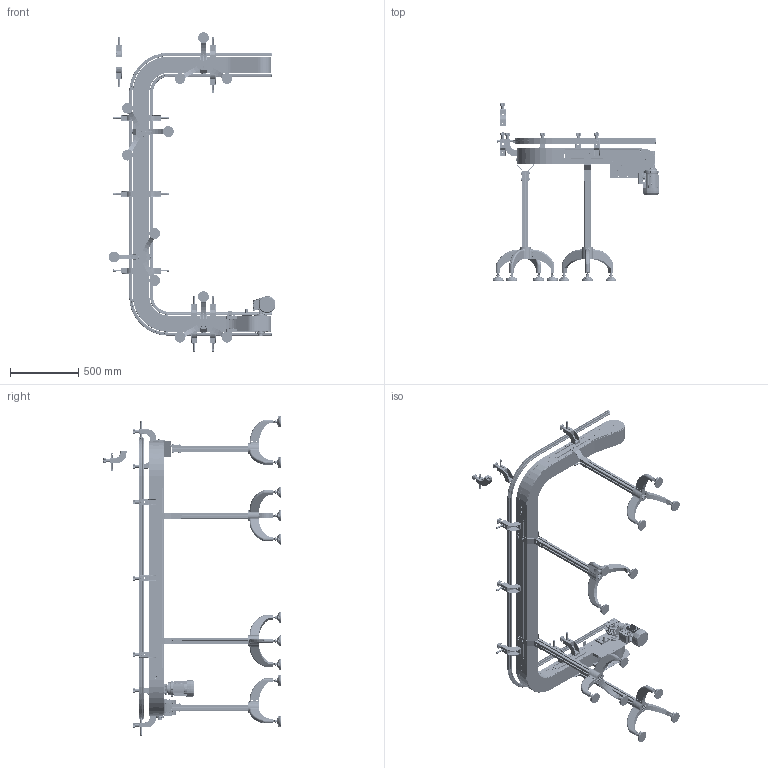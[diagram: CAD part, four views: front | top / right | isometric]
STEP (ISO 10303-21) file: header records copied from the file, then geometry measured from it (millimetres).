
FILE_DESCRIPTION (( 'STEP AP203' ), '1' );
FILE_NAME ('NASTRO_CATENA.step', '2026-04-28T08:26:16', ( 'Utente Windows' ), ( '' ), 'SwSTEP 2.0', 'SolidWorks 2024', '' );
FILE_SCHEMA (( 'CONFIG_CONTROL_DESIGN' ));
Length unit declared in the file: millimetre
Products named in the file (76): RONDELLE FASCIA LARGA UNI 6593 INOX_8.4x32 UNI 6593 INOX; K450_DIR_49_P_DX_MOTORE A DESTRA; NASTRO_CATENA; SUPPORTO_SPONDA; 2000.001.209-1; 084.201.012-1; K450_90°_S_P; 2000.450.002; 2000.001.001; 2000.882.750; RONDELLE FASCIA LARGA UNI 6593 INOX_8.4x24 UNI 6593 INOX; VITI TE UNI 5739_M8x20 UNI 5739; VITI TE UNI 5739 INOX_M6x20 UNI 5739 INOX; K450_R_P; 084.711.005; 2000.450.003; K450_7_Default<A macchina>; VITI TE UNI 5739 INOX_M8x16 UNI 5739 INOX; 2000.001.006-2; 2000.450.103-2; 2000.001.003-3; VITI TE UNI 5739 INOX_M6x30 UNI 5739 INOX; CATENA_UDX; 2000.450.001; 2000.325.206-1; 084.808.004; PU008.012.025N; GRANI A PUNTA PIATTA UNI 5923_M8x20 UNI 5923; 2000.450.101-1; 084.408.001; VITI TSEI UNI 5933 INOX_0410UNI5933A2; 084.302.000 DADI ALUSIC 13x13-1_084.302.008; FLANGIA_GAMBE_KP450; 25UNI7435; GRANI A PUNTA CONICA UNI 5927_M8x16 UNI 5927; 084.711.004; 084.301.000 VITI ALUSIC_084.301.002; CH05P_DX; GAMBE_KP325_Default<A macchina>; 2000.450.422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
Assembly tree (229 placements, depth 3):
  NASTRO_CATENA
    K450_1_Default<A macchina>
    K450_7_Default<A macchina>
    K450_9_Default<A macchina>
    K450_DIR_49_P_DX_MOTORE A DESTRA
      084.802.027
      2000.001.006-2  x2
      2000.001.001  x2
      2000.001.004-3
      2000.001.003-3
      2000.001.011
      2000.450.101-1
      2000.450.001  x2
      2000.450.103-2
      2000.450.104-2
      2000.450.002  x2
      084.808.004
      PU008.012.025N
      CHIAVETTE_A 8x7x70 UNI 6604-69
      CHIAVETTE_A 8x7x50 UNI 6604-69
      SBPF205  x2
      663151_NS880T12R25
      VITI TSEI UNI 5933 INOX_0410UNI5933A2  x8
      GRANI A PUNTA CONICA UNI 5927_M8x16 UNI 5927  x8
      VITI TCEI UNI 5931 INOX_M6x30 UNI 5931 INOX  x2
      VITI TE UNI 5739 INOX_M8x20 UNI 5739 INOX
      RONDELLE FASCIA LARGA UNI 6593 INOX_8.4x32 UNI 6593 INOX
      GRANI A PUNTA PIATTA UNI 5923_M8x20 UNI 5923
      RONDELLE FASCIA LARGA UNI 6593 INOX_8.4x24 UNI 6593 INOX
      VITI TE UNI 5739 INOX_M8x16 UNI 5739 INOX  x7
      DADI ESAGONALI AUTOBLOCCANTI UNI 7473 INOX_M6 UNI 7473 INOX  x4
      084.312.006  x6
      VITI TE UNI 5739 INOX_M6x20 UNI 5739 INOX  x6
      VITI TE UNI 5739 INOX_M6x30 UNI 5739 INOX  x4
      VITI TE UNI 5739 INOX_M6x12 UNI 5739 INOX  x4
    K450_90°_S_P  x2
      2000.001.402
      2000.450.005_Default<A macchina>
      2000.450.421_2000.450.421
      2000.450.422
      2000.450.423
      VITI TSEI UNI 5933 INOX_0820UNI5933A2
      VITI TSEI UNI 5933 INOX_0620UNI5933A2
      084.302.000 DADI ALUSIC 13x13-1_084.302.008
    K450_R_P
      2000.001.206-2
      2000.001.207-2
      2000.450.201-1S
      2000.001.208-1
      2000.001.209-1
      2000.450.003  x2
      2000.001.001  x2
      2000.450.001  x2
      2000.325.206-1
      PROFILO POLIZENE LARGO  x2
      VITI TSEI UNI 5933 INOX_0620UNI5933A2  x8
      VITI TSEI UNI 5933 INOX_0410UNI5933A2  x14
      VITI TSEI UNI 5933 INOX_0820UNI5933A2  x2
      GRANI A PUNTA CONICA UNI 5927 INOX_M8x14 UNI 5927 INOX  x8
      25UNI7435  x2
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Bounding box: 1224.3 x 1305.89 x 2344.56 mm (x, y, z)
Volume: 38546446.1 mm3; surface area: 13973337.5 mm2
Topology: 440 solids, 449 shells, 18110 faces, 43534 edges, 26472 vertices
Faces by surface type: plane 6433, cylinder 6402, cone 3575, torus 853, bspline 763, sphere 84
Entity records: 204081 total; most frequent: CARTESIAN_POINT 56654, DIRECTION 28845, ORIENTED_EDGE 28026, EDGE_CURVE 14024, AXIS2_PLACEMENT_3D 10567, VERTEX_POINT 8703, LINE 7711, VECTOR 7711
